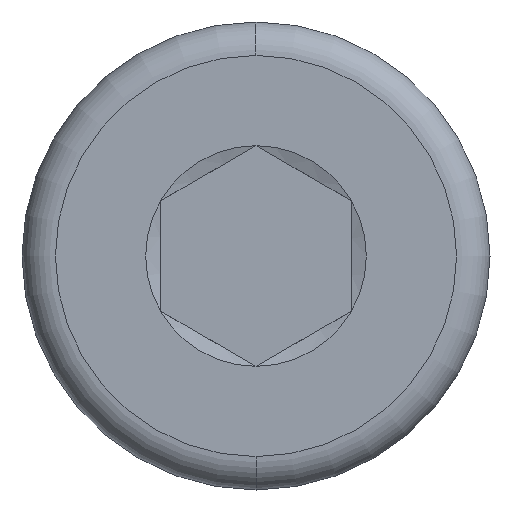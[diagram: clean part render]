
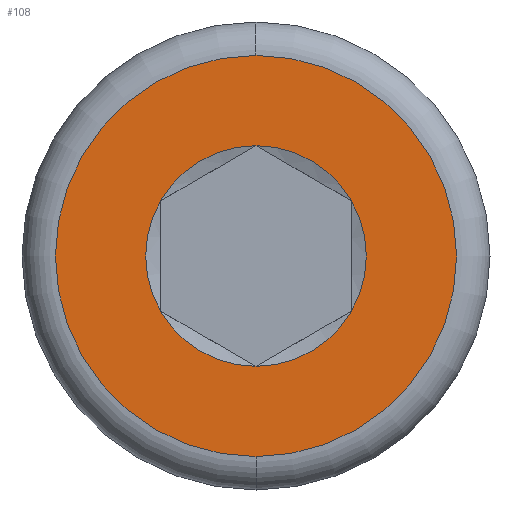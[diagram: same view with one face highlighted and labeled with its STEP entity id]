
A CAD part, left-side view. The second image highlights one B-rep face of the part: STEP entity #108.
In plain terms, the highlighted planar face has unit normal (-1, 0, 0).
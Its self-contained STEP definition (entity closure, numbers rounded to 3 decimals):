
#3 = ORIENTED_EDGE ( 'NONE', *, *, #594, .T. ) ;
#19 = PLANE ( 'NONE',  #483 ) ;
#63 = DIRECTION ( 'NONE',  ( 0., 0., -1. ) ) ;
#80 = EDGE_CURVE ( 'NONE', #373, #583, #354, .T. ) ;
#85 = DIRECTION ( 'NONE',  ( 1., 0., 0. ) ) ;
#87 = EDGE_LOOP ( 'NONE', ( #462, #620 ) ) ;
#99 = AXIS2_PLACEMENT_3D ( 'NONE', #412, #510, #347 ) ;
#108 = ADVANCED_FACE ( 'NONE', ( #481, #539 ), #19, .T. ) ;
#116 = CARTESIAN_POINT ( 'NONE',  ( 0., 0., 0. ) ) ;
#122 = CARTESIAN_POINT ( 'NONE',  ( 0., 0., 0. ) ) ;
#132 = DIRECTION ( 'NONE',  ( 1., 0., 0. ) ) ;
#133 = VERTEX_POINT ( 'NONE', #229 ) ;
#134 = CARTESIAN_POINT ( 'NONE',  ( 0., 2., 1.155 ) ) ;
#152 = EDGE_LOOP ( 'NONE', ( #401, #3, #337, #460, #415, #189 ) ) ;
#163 = AXIS2_PLACEMENT_3D ( 'NONE', #122, #643, #597 ) ;
#171 = CARTESIAN_POINT ( 'NONE',  ( 0., 0., 0. ) ) ;
#172 = CIRCLE ( 'NONE', #367, 2.309 ) ;
#185 = DIRECTION ( 'NONE',  ( 1., 0., 0. ) ) ;
#189 = ORIENTED_EDGE ( 'NONE', *, *, #80, .T. ) ;
#190 = AXIS2_PLACEMENT_3D ( 'NONE', #171, #545, #389 ) ;
#193 = CIRCLE ( 'NONE', #270, 4.2 ) ;
#204 = CARTESIAN_POINT ( 'NONE',  ( 0., 0., 2.309 ) ) ;
#205 = EDGE_CURVE ( 'NONE', #583, #258, #172, .T. ) ;
#226 = DIRECTION ( 'NONE',  ( -1., 0., 0. ) ) ;
#229 = CARTESIAN_POINT ( 'NONE',  ( 0., -2., 1.155 ) ) ;
#240 = CARTESIAN_POINT ( 'NONE',  ( 0., 0., -4.2 ) ) ;
#245 = AXIS2_PLACEMENT_3D ( 'NONE', #116, #417, #63 ) ;
#248 = EDGE_CURVE ( 'NONE', #525, #617, #193, .T. ) ;
#258 = VERTEX_POINT ( 'NONE', #204 ) ;
#270 = AXIS2_PLACEMENT_3D ( 'NONE', #550, #185, #598 ) ;
#286 = CARTESIAN_POINT ( 'NONE',  ( 0., 0., 0. ) ) ;
#287 = DIRECTION ( 'NONE',  ( 0., 0., -1. ) ) ;
#316 = EDGE_CURVE ( 'NONE', #350, #373, #651, .T. ) ;
#324 = CARTESIAN_POINT ( 'NONE',  ( 0., 2., -1.155 ) ) ;
#329 = DIRECTION ( 'NONE',  ( 0., 0., 1. ) ) ;
#337 = ORIENTED_EDGE ( 'NONE', *, *, #409, .T. ) ;
#338 = CARTESIAN_POINT ( 'NONE',  ( 0., 0., 0. ) ) ;
#347 = DIRECTION ( 'NONE',  ( 0., 0., -1. ) ) ;
#350 = VERTEX_POINT ( 'NONE', #638 ) ;
#354 = CIRCLE ( 'NONE', #190, 2.309 ) ;
#357 = CIRCLE ( 'NONE', #99, 2.309 ) ;
#367 = AXIS2_PLACEMENT_3D ( 'NONE', #505, #132, #555 ) ;
#373 = VERTEX_POINT ( 'NONE', #324 ) ;
#389 = DIRECTION ( 'NONE',  ( 0., 0., -1. ) ) ;
#392 = DIRECTION ( 'NONE',  ( 0., 0., -1. ) ) ;
#401 = ORIENTED_EDGE ( 'NONE', *, *, #205, .T. ) ;
#406 = VERTEX_POINT ( 'NONE', #427 ) ;
#409 = EDGE_CURVE ( 'NONE', #133, #406, #566, .T. ) ;
#412 = CARTESIAN_POINT ( 'NONE',  ( 0., 0., 0. ) ) ;
#415 = ORIENTED_EDGE ( 'NONE', *, *, #316, .T. ) ;
#417 = DIRECTION ( 'NONE',  ( 1., 0., 0. ) ) ;
#427 = CARTESIAN_POINT ( 'NONE',  ( 0., -2., -1.155 ) ) ;
#432 = CARTESIAN_POINT ( 'NONE',  ( 0., 0., 0. ) ) ;
#460 = ORIENTED_EDGE ( 'NONE', *, *, #663, .T. ) ;
#462 = ORIENTED_EDGE ( 'NONE', *, *, #562, .F. ) ;
#481 = FACE_BOUND ( 'NONE', #152, .T. ) ;
#483 = AXIS2_PLACEMENT_3D ( 'NONE', #432, #226, #329 ) ;
#485 = CIRCLE ( 'NONE', #163, 4.2 ) ;
#489 = CARTESIAN_POINT ( 'NONE',  ( 0., 0., 4.2 ) ) ;
#505 = CARTESIAN_POINT ( 'NONE',  ( 0., 0., 0. ) ) ;
#510 = DIRECTION ( 'NONE',  ( 1., 0., 0. ) ) ;
#525 = VERTEX_POINT ( 'NONE', #489 ) ;
#539 = FACE_OUTER_BOUND ( 'NONE', #87, .T. ) ;
#545 = DIRECTION ( 'NONE',  ( 1., 0., 0. ) ) ;
#550 = CARTESIAN_POINT ( 'NONE',  ( 0., 0., 0. ) ) ;
#555 = DIRECTION ( 'NONE',  ( 0., 0., -1. ) ) ;
#562 = EDGE_CURVE ( 'NONE', #617, #525, #485, .T. ) ;
#566 = CIRCLE ( 'NONE', #245, 2.309 ) ;
#583 = VERTEX_POINT ( 'NONE', #134 ) ;
#594 = EDGE_CURVE ( 'NONE', #258, #133, #641, .T. ) ;
#597 = DIRECTION ( 'NONE',  ( 0., 0., -1. ) ) ;
#598 = DIRECTION ( 'NONE',  ( 0., 0., -1. ) ) ;
#617 = VERTEX_POINT ( 'NONE', #240 ) ;
#620 = ORIENTED_EDGE ( 'NONE', *, *, #248, .F. ) ;
#638 = CARTESIAN_POINT ( 'NONE',  ( 0., 0., -2.309 ) ) ;
#641 = CIRCLE ( 'NONE', #675, 2.309 ) ;
#643 = DIRECTION ( 'NONE',  ( 1., 0., 0. ) ) ;
#645 = DIRECTION ( 'NONE',  ( 1., 0., 0. ) ) ;
#651 = CIRCLE ( 'NONE', #673, 2.309 ) ;
#663 = EDGE_CURVE ( 'NONE', #406, #350, #357, .T. ) ;
#673 = AXIS2_PLACEMENT_3D ( 'NONE', #286, #85, #392 ) ;
#675 = AXIS2_PLACEMENT_3D ( 'NONE', #338, #645, #287 ) ;
